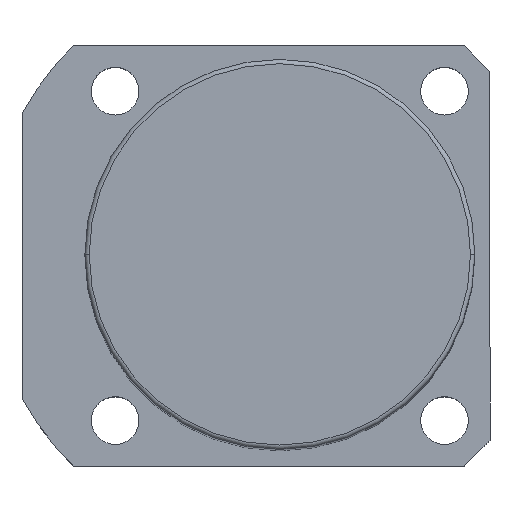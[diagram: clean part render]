
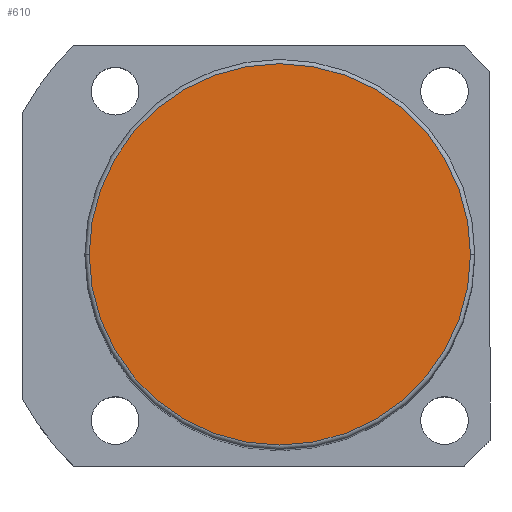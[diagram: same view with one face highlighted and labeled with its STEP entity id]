
A CAD part, top view. The second image highlights one B-rep face of the part: STEP entity #610.
In plain terms, the highlighted planar face has unit normal (0, 0, 1).
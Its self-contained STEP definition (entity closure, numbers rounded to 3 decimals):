
#46 = EDGE_CURVE ( 'NONE', #520, #1153, #456, .T. ) ;
#402 = PLANE ( 'NONE',  #1188 ) ;
#404 = CARTESIAN_POINT ( 'NONE',  ( 0., 0., 211.5 ) ) ;
#416 = CARTESIAN_POINT ( 'NONE',  ( -44., 0., 211.5 ) ) ;
#456 = CIRCLE ( 'NONE', #1522, 44. ) ;
#477 = EDGE_CURVE ( 'NONE', #1153, #520, #1117, .T. ) ;
#520 = VERTEX_POINT ( 'NONE', #944 ) ;
#586 = ORIENTED_EDGE ( 'NONE', *, *, #46, .T. ) ;
#610 = ADVANCED_FACE ( 'NONE', ( #787 ), #402, .T. ) ;
#641 = AXIS2_PLACEMENT_3D ( 'NONE', #1377, #660, #956 ) ;
#660 = DIRECTION ( 'NONE',  ( 0., 0., 1. ) ) ;
#787 = FACE_OUTER_BOUND ( 'NONE', #1393, .T. ) ;
#944 = CARTESIAN_POINT ( 'NONE',  ( 44., 0., 211.5 ) ) ;
#956 = DIRECTION ( 'NONE',  ( 1., 0., 0. ) ) ;
#994 = CARTESIAN_POINT ( 'NONE',  ( 0., 0., 211.5 ) ) ;
#1117 = CIRCLE ( 'NONE', #641, 44. ) ;
#1123 = ORIENTED_EDGE ( 'NONE', *, *, #477, .T. ) ;
#1133 = DIRECTION ( 'NONE',  ( 1., 0., 0. ) ) ;
#1144 = DIRECTION ( 'NONE',  ( 0., 0., 1. ) ) ;
#1153 = VERTEX_POINT ( 'NONE', #416 ) ;
#1188 = AXIS2_PLACEMENT_3D ( 'NONE', #994, #1144, #1539 ) ;
#1377 = CARTESIAN_POINT ( 'NONE',  ( 0., 0., 211.5 ) ) ;
#1393 = EDGE_LOOP ( 'NONE', ( #586, #1123 ) ) ;
#1410 = DIRECTION ( 'NONE',  ( 0., 0., 1. ) ) ;
#1522 = AXIS2_PLACEMENT_3D ( 'NONE', #404, #1410, #1133 ) ;
#1539 = DIRECTION ( 'NONE',  ( 1., 0., 0. ) ) ;
